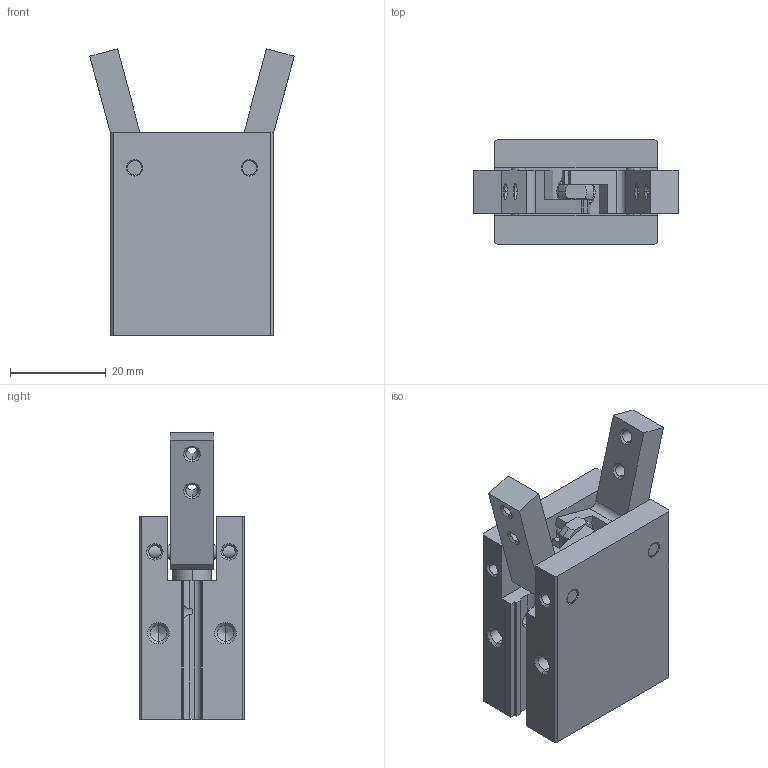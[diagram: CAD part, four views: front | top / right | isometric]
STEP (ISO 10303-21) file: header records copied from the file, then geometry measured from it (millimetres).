
FILE_DESCRIPTION (( 'STEP AP214' ), '1' );
FILE_NAME ('MCHA-16.STEP', '2013-10-22T20:45:29', ( 'user' ), ( '' ), 'SwSTEP 2.0', 'SolidWorks 2009', '' );
FILE_SCHEMA (( 'AUTOMOTIVE_DESIGN' ));
Length unit declared in the file: millimetre
Products named in the file (1): MCHA-16
Bounding box: 42.74 x 22 x 59.92 mm (x, y, z)
Volume: 27525.4 mm3; surface area: 11912.7 mm2
Topology: 1 solids, 6 shells, 261 faces, 662 edges, 409 vertices
Faces by surface type: cylinder 103, plane 82, cone 76
Entity records: 8332 total; most frequent: CARTESIAN_POINT 1867, DIRECTION 1363, ORIENTED_EDGE 1284, EDGE_CURVE 642, AXIS2_PLACEMENT_3D 497, VERTEX_POINT 409, VECTOR 369, LINE 369
